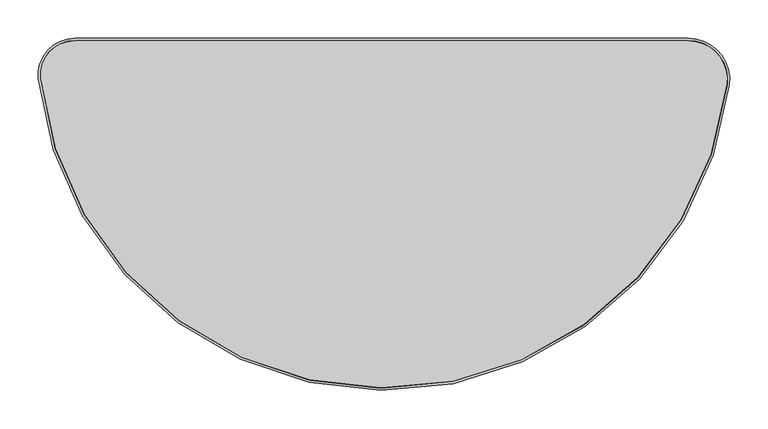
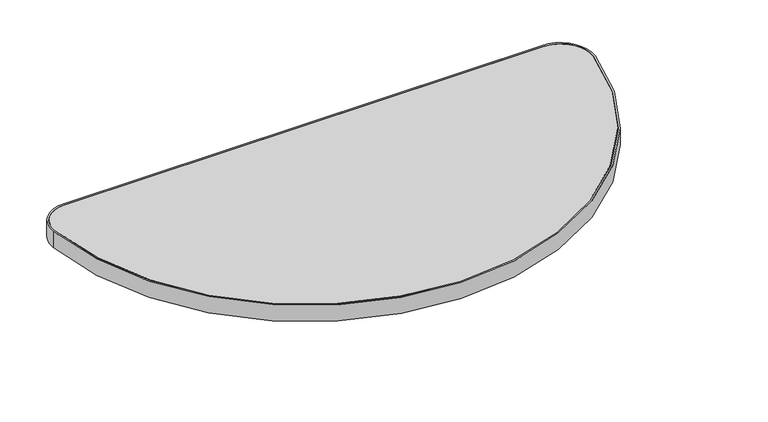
"""IFC4 building model written with IfcOpenShell, lengths in millimetres: furniture geometry, Steelcase - Groupwork - Table - Top - Half Round : 18D x 36W - HPL."""

from ifc_helpers import new_model, si_unit, point, frame, frame_2d, origin, place, context, project, spatial, polyline, circle_curve, trimmed, segment, composite_curve, outline, extrude, source, transform, mapped, element, save


def furniture_3a9b2a28(model_context):
    return source(origin(), model_context, "Body", "SweptSolid", [
        extrude(outline(composite_curve([segment(polyline([(-402.4292063, 3.048), (397.5389242, 3.048)]), True, "CONTINUOUS"), segment(trimmed(circle_curve(frame_2d((397.5389242, -51.054)), 54.102), [point((397.5389242, 3.048))], [point((451.2547031, -57.5070223))], False, "CARTESIAN"), True, "CONTINUOUS"), segment(trimmed(circle_curve(frame_2d((1.1023641, -3.429)), 453.388973), [point((451.2547031, -57.5070223))], [point((-449.9333561, -49.5629353))], False, "CARTESIAN"), True, "CONTINUOUS"), segment(trimmed(circle_curve(frame_2d((-402.4292063, -44.704)), 47.752), [point((-449.9333561, -49.5629353))], [point((-402.4292063, 3.048))], False, "CARTESIAN"), True, "CONTINUOUS")], self_intersect=False), holes=[composite_curve([segment(trimmed(circle_curve(frame_2d((1.1023641, -3.429)), 450.4171729), [point((-446.9769807, -49.2605441))], [point((448.304118, -57.1525605))], True, "CARTESIAN"), True, "CONTINUOUS"), segment(trimmed(circle_curve(frame_2d((397.5389242, -51.054)), 51.1301999), [point((448.304118, -57.1525605))], [point((397.5389242, 0.0761999))], True, "CARTESIAN"), True, "CONTINUOUS"), segment(polyline([(397.5389242, 0.0761999), (-402.4292063, 0.0761999)]), True, "CONTINUOUS"), segment(trimmed(circle_curve(frame_2d((-402.4292063, -44.704)), 44.7801999), [point((-402.4292063, 0.0761999))], [point((-446.9769807, -49.2605441))], True, "CARTESIAN"), True, "CONTINUOUS")], self_intersect=False)]), frame((0.0, 0.0, 695.579), z_axis=(0.0, 0.0, 1.0), x_axis=(1.0, 0.0, 0.0)), (0.0, 0.0, 1.0), 28.702),
        extrude(outline(composite_curve([segment(polyline([(-402.4292063, -0.254), (397.5389242, -0.254)]), True, "CONTINUOUS"), segment(trimmed(circle_curve(frame_2d((397.5389242, -51.054)), 50.8), [point((397.5389242, -0.254))], [point((447.9762753, -57.1131759))], False, "CARTESIAN"), True, "CONTINUOUS"), segment(trimmed(circle_curve(frame_2d((1.1023641, -3.429)), 450.086973), [point((447.9762753, -57.1131759))], [point((-446.6484947, -49.2269451))], False, "CARTESIAN"), True, "CONTINUOUS"), segment(trimmed(circle_curve(frame_2d((-402.4292063, -44.704)), 44.45), [point((-446.6484947, -49.2269451))], [point((-402.4292063, -0.254))], False, "CARTESIAN"), True, "CONTINUOUS")], self_intersect=False)), frame((0.0, 0.0, 695.579), z_axis=(0.0, 0.0, 1.0), x_axis=(1.0, 0.0, 0.0)), (0.0, 0.0, 1.0), 28.702),
    ])


if __name__ == "__main__":
    model = new_model("IFC4")
    model_context = context("Model", 3, world=origin())
    ifc_project = project(units=[si_unit("LENGTHUNIT", "METRE", prefix="MILLI")], contexts=[model_context])
    site = spatial("IfcSite", under=ifc_project)
    building = spatial("IfcBuilding", under=site)
    placement = place(None, origin())
    furniture_shape = furniture_3a9b2a28(model_context)
    element("IfcFurniture", 1, ObjectType="Steelcase - Groupwork - Table - Top - Half Round : 18D x 36W - HPL", at=placement, inside=building, context=model_context, shape_type="MappedRepresentation", body=[
        mapped(furniture_shape, transform((0.0, 0.0, 0.0), x_axis=(1.0, 0.0, 0.0), y_axis=(0.0, 1.0, 0.0), z_axis=(0.0, 0.0, 1.0))),
    ])
    save(model, "model.ifc")
